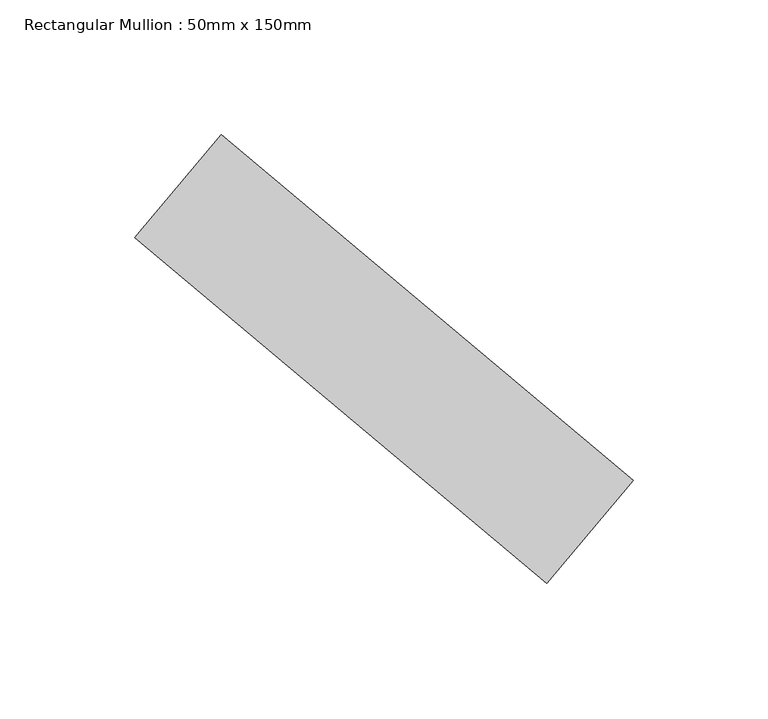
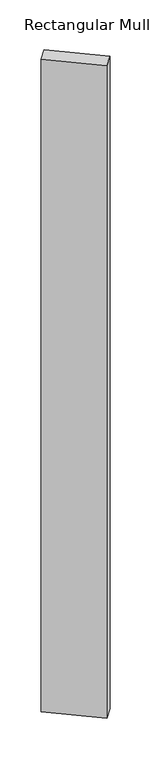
"""IFC4 building model written with IfcOpenShell, lengths in millimetres: member geometry, Rectangular Mullion : 50mm x 150mm."""

import ifcopenshell
import ifcopenshell.guid

model = None  # the IFC model being written
_history = None  # IfcOwnerHistory: only IFC2X3 demands one
_inside = {}  # id of a spatial element -> (the spatial element, [elements in it])
_under = {}  # id of a project, library or spatial element -> (it, [spatial elements below it])
_declared = {}  # id of a project -> (the project, [libraries it declares])
_typed = {}  # id of a type object -> (the type object, [elements of that type])
_made_of = {}  # id of a material, layer set ... -> (it, [elements and type objects made of it])


def new_model(schema):
    """Start an empty IFC model of exactly this schema.

    Asked for "IFC4X3", IfcOpenShell would pick the latest addendum, in which some entities
    have other attributes; the version numbers below select the first issue.
    IFC2X3 requires an IfcOwnerHistory on every rooted entity: one is made here for all.
    """
    global model, _history
    if schema == "IFC4X3":
        model = ifcopenshell.file(schema_version=(4, 3, 0, 0))
    else:
        model = ifcopenshell.file(schema=schema)
    _inside.clear()
    _under.clear()
    _declared.clear()
    _typed.clear()
    _made_of.clear()
    _history = None
    if model.schema == "IFC2X3":
        org = make("IfcOrganization", Name="unknown")
        user = make(
            "IfcPersonAndOrganization",
            ThePerson=make("IfcPerson", FamilyName="unknown"),
            TheOrganization=org,
        )
        app = make(
            "IfcApplication",
            ApplicationDeveloper=org,
            Version="unknown",
            ApplicationFullName="unknown",
            ApplicationIdentifier="unknown",
        )
        _history = make(
            "IfcOwnerHistory",
            OwningUser=user,
            OwningApplication=app,
            ChangeAction="ADDED",
            CreationDate=0,
        )
    return model


def make(cls, **values):
    """One entity of the class cls with the attributes given. An attribute that is None is left unset."""
    return model.create_entity(
        cls, **{name: value for name, value in values.items() if value is not None}
    )


def rooted(cls, **values):
    """An entity with a GlobalId (a new one), such as an element, a storey or a relation."""
    return make(cls, GlobalId=ifcopenshell.guid.new(), OwnerHistory=_history, **values)


def si_unit(unit_type, name, prefix=None):
    """IfcSIUnit, for example si_unit("LENGTHUNIT", "METRE", prefix="MILLI")."""
    return make("IfcSIUnit", UnitType=unit_type, Prefix=prefix, Name=name)


def assignment(units):
    """IfcUnitAssignment: the units of a project."""
    return None if units is None else make("IfcUnitAssignment", Units=units)


def point(xyz):
    """IfcCartesianPoint."""
    return None if xyz is None else make("IfcCartesianPoint", Coordinates=xyz)


def direction(xyz):
    """IfcDirection."""
    return None if xyz is None else make("IfcDirection", DirectionRatios=xyz)


def frame(location, z_axis=None, x_axis=None):
    """IfcAxis2Placement3D, a coordinate frame: its origin and axes. An axis left out is left unset."""
    return make(
        "IfcAxis2Placement3D",
        Location=point(location),
        Axis=direction(z_axis),
        RefDirection=direction(x_axis),
    )


def origin():
    """The frame at (0, 0, 0) with its axes left unset."""
    return frame((0.0, 0.0, 0.0))


def place(relative_to, where):
    """IfcLocalPlacement: puts the frame where relative to a parent placement (None: the world)."""
    return make(
        "IfcLocalPlacement", PlacementRelTo=relative_to, RelativePlacement=where
    )


def context(
    kind, dimensions, precision=None, world=None, true_north=None, identifier=None
):
    """IfcGeometricRepresentationContext, for example the 3D "Model" context."""
    return make(
        "IfcGeometricRepresentationContext",
        ContextIdentifier=identifier,
        ContextType=kind,
        CoordinateSpaceDimension=dimensions,
        Precision=precision,
        WorldCoordinateSystem=world,
        TrueNorth=true_north,
    )


def project(units=None, contexts=None):
    """IfcProject with its units and contexts."""
    return rooted(
        "IfcProject",
        Name="project",
        RepresentationContexts=contexts,
        UnitsInContext=assignment(units),
    )


def spatial(cls, under=None, at=None, **own):
    """A site, building, storey or space (cls), placed at a placement, below another one or the project."""
    s = rooted(cls, ObjectPlacement=at, **own)
    if under is not None:
        _under.setdefault(under.id(), (under, []))[1].append(s)
    return s


def polyline(points):
    """IfcPolyline through the points."""
    return make("IfcPolyline", Points=[point(p) for p in points])


def outline(outer, holes=None, kind="AREA"):
    """IfcArbitraryClosedProfileDef: a profile drawn as a closed curve; with holes, ...WithVoids."""
    if holes is None:
        return make("IfcArbitraryClosedProfileDef", ProfileType=kind, OuterCurve=outer)
    return make(
        "IfcArbitraryProfileDefWithVoids",
        ProfileType=kind,
        OuterCurve=outer,
        InnerCurves=holes,
    )


def extrude(swept, where, along, depth):
    """IfcExtrudedAreaSolid: the profile swept, set in the frame where, extruded along a direction by depth."""
    return make(
        "IfcExtrudedAreaSolid",
        SweptArea=swept,
        Position=where,
        ExtrudedDirection=direction(along),
        Depth=depth,
    )


def shape(context_of_items, identifier, shape_type, items):
    """IfcShapeRepresentation: the items that make up one representation, for example the "Body"."""
    return make(
        "IfcShapeRepresentation",
        ContextOfItems=context_of_items,
        RepresentationIdentifier=identifier,
        RepresentationType=shape_type,
        Items=items,
    )


def source(mapping_origin, context_of_items, identifier, shape_type, items):
    """IfcRepresentationMap: a shape defined once, which mapped items show again and again."""
    return make(
        "IfcRepresentationMap",
        MappingOrigin=mapping_origin,
        MappedRepresentation=shape(context_of_items, identifier, shape_type, items),
    )


def transform(
    local_origin,
    x_axis=None,
    y_axis=None,
    z_axis=None,
    scale=None,
    scale2=None,
    scale3=None,
    uniform=True,
):
    """IfcCartesianTransformationOperator3D, or its non-uniform kind. x_axis, y_axis, z_axis: its Axis1, 2, 3."""
    if uniform:
        return make(
            "IfcCartesianTransformationOperator3D",
            Axis1=direction(x_axis),
            Axis2=direction(y_axis),
            LocalOrigin=point(local_origin),
            Scale=scale,
            Axis3=direction(z_axis),
        )
    return make(
        "IfcCartesianTransformationOperator3DnonUniform",
        Axis1=direction(x_axis),
        Axis2=direction(y_axis),
        LocalOrigin=point(local_origin),
        Scale=scale,
        Axis3=direction(z_axis),
        Scale2=scale2,
        Scale3=scale3,
    )


def mapped(mapping_source, mapping_target):
    """IfcMappedItem: shows the shape of a source again, moved by a transform."""
    return make(
        "IfcMappedItem", MappingSource=mapping_source, MappingTarget=mapping_target
    )


def made_of(thing, what):
    """Note that an element or type object is made of a material, layer set ...; save() writes the relation."""
    if what is not None:
        _made_of.setdefault(what.id(), (what, []))[1].append(thing)
    return thing


def element(
    cls,
    number,
    at=None,
    inside=None,
    cuts=None,
    type_object=None,
    material=None,
    context=None,
    identifier="Body",
    shape_type=None,
    held_by="IfcProductDefinitionShape",
    body=None,
    shapes=None,
    **own,
):
    """One element of the class cls, such as IfcWall. Its Tag is "e" and its number.

    at: its placement. inside: the storey or other place that contains it. cuts: it is an
    opening in that element (IfcRelVoidsElement). A single representation is given by context,
    identifier, shape_type and body (its items); several are given by shapes. held_by: the class
    of the entity that holds the representations. save() writes the other relations.
    """
    e = rooted(cls, Tag="e%d" % number, ObjectPlacement=at, **own)
    if body is not None:
        shapes = [shape(context, identifier, shape_type, body)]
    if shapes is not None:
        e.Representation = make(held_by, Representations=shapes)
    if inside is not None:
        _inside.setdefault(inside.id(), (inside, []))[1].append(e)
    if cuts is not None:
        rooted(
            "IfcRelVoidsElement", RelatingBuildingElement=cuts, RelatedOpeningElement=e
        )
    if type_object is not None:
        _typed.setdefault(type_object.id(), (type_object, []))[1].append(e)
    return made_of(e, material)


def aggregate(whole, parts):
    """IfcRelAggregates: a whole, such as a stair, and the parts it consists of."""
    return rooted("IfcRelAggregates", RelatingObject=whole, RelatedObjects=parts)


def save(model, path):
    """Write the relations noted so far, then the file.

    IfcRelAggregates (storeys below a building ...), IfcRelContainedInSpatialStructure (elements
    in a storey), IfcRelDefinesByType, IfcRelAssociatesMaterial and IfcRelDeclares: one each for
    every whole, place, type object, material and project.
    """
    for whole, parts in _under.values():
        aggregate(whole, parts)
    for where, things in _inside.values():
        rooted(
            "IfcRelContainedInSpatialStructure",
            RelatedElements=things,
            RelatingStructure=where,
        )
    for kind, things in _typed.values():
        rooted("IfcRelDefinesByType", RelatedObjects=things, RelatingType=kind)
    for what, things in _made_of.values():
        rooted("IfcRelAssociatesMaterial", RelatedObjects=things, RelatingMaterial=what)
    for by, libraries in _declared.values():
        rooted("IfcRelDeclares", RelatingContext=by, RelatedDefinitions=libraries)
    model.write(path)


def rectangular_mullion_50mm_x_150mm_d19166ad(model_context):
    return source(origin(), model_context, "Body", "SweptSolid", [
        extrude(outline(polyline([(-60.5347541, 83.429872), (92.6741346, -45.1276499), (60.5347541, -83.429872), (-92.6741346, 45.1276499), (-60.5347541, 83.429872)])), frame((0.0, 0.0, -2380.0), z_axis=(0.0, 0.0, 1.0), x_axis=(1.0, 0.0, 0.0)), (0.0, 0.0, 1.0), 2380.0),
    ])


if __name__ == "__main__":
    model = new_model("IFC4")
    model_context = context("Model", 3, world=origin())
    ifc_project = project(units=[si_unit("LENGTHUNIT", "METRE", prefix="MILLI")], contexts=[model_context])
    site = spatial("IfcSite", under=ifc_project)
    building = spatial("IfcBuilding", under=site)
    placement = place(None, origin())
    rectangular_mullion_50mm_x_150mm_shape = rectangular_mullion_50mm_x_150mm_d19166ad(model_context)
    element("IfcMember", 1, ObjectType="Rectangular Mullion : 50mm x 150mm", at=placement, inside=building, context=model_context, shape_type="MappedRepresentation", body=[
        mapped(rectangular_mullion_50mm_x_150mm_shape, transform((0.0, 0.0, 0.0), x_axis=(1.0, 0.0, 0.0), y_axis=(0.0, 1.0, 0.0), z_axis=(0.0, 0.0, 1.0))),
    ])
    save(model, "model.ifc")
